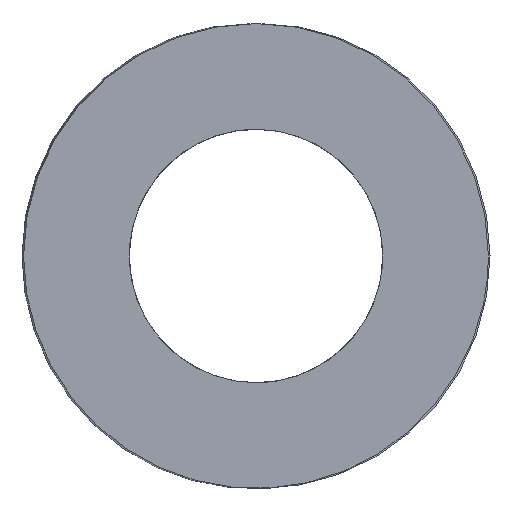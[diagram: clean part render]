
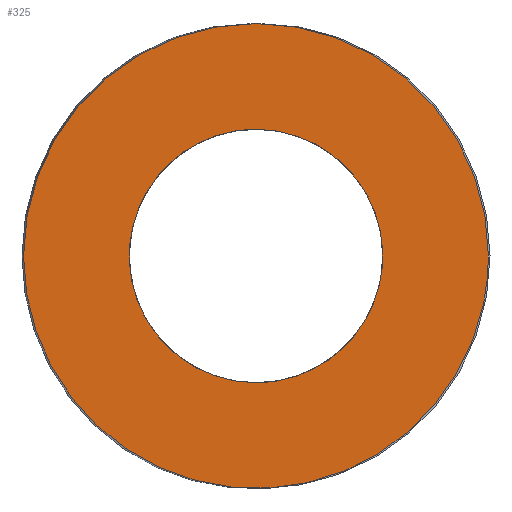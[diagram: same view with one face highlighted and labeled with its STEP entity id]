
A CAD part, left-side view. The second image highlights one B-rep face of the part: STEP entity #325.
In plain terms, the highlighted planar face has unit normal (-1, 0, 0).
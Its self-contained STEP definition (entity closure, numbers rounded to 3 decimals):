
#63=CARTESIAN_POINT('Vertex',(0.,24.4,0.)) ;
#89=CARTESIAN_POINT('Vertex',(0.,-24.4,0.)) ;
#93=CARTESIAN_POINT('Control Point',(0.,24.4,0.)) ;
#94=CARTESIAN_POINT('Control Point',(0.,24.4,-3.833)) ;
#95=CARTESIAN_POINT('Control Point',(0.,23.647,-7.665)) ;
#96=CARTESIAN_POINT('Control Point',(0.,22.142,-11.301)) ;
#97=CARTESIAN_POINT('Control Point',(0.,17.786,-17.786)) ;
#98=CARTESIAN_POINT('Control Point',(0.,11.301,-22.142)) ;
#99=CARTESIAN_POINT('Control Point',(0.,7.665,-23.647)) ;
#100=CARTESIAN_POINT('Control Point',(0.,0.,-25.153)) ;
#101=CARTESIAN_POINT('Control Point',(0.,-7.665,-23.647)) ;
#102=CARTESIAN_POINT('Control Point',(0.,-11.301,-22.142)) ;
#103=CARTESIAN_POINT('Control Point',(0.,-17.786,-17.786)) ;
#104=CARTESIAN_POINT('Control Point',(0.,-22.142,-11.301)) ;
#105=CARTESIAN_POINT('Control Point',(0.,-23.647,-7.665)) ;
#106=CARTESIAN_POINT('Control Point',(0.,-24.4,-3.833)) ;
#107=CARTESIAN_POINT('Control Point',(0.,-24.4,0.)) ;
#121=CARTESIAN_POINT('Axis2P3D Location',(0.,0.,0.)) ;
#256=CARTESIAN_POINT('Axis2P3D Location',(0.,12.2,0.)) ;
#266=CARTESIAN_POINT('Control Point',(0.,0.,-13.3)) ;
#267=CARTESIAN_POINT('Control Point',(0.,1.251,-13.3)) ;
#268=CARTESIAN_POINT('Control Point',(0.,2.501,-13.153)) ;
#269=CARTESIAN_POINT('Control Point',(0.,3.729,-12.859)) ;
#270=CARTESIAN_POINT('Control Point',(0.,6.092,-11.988)) ;
#271=CARTESIAN_POINT('Control Point',(0.,8.189,-10.593)) ;
#272=CARTESIAN_POINT('Control Point',(0.,9.15,-9.774)) ;
#273=CARTESIAN_POINT('Control Point',(0.,10.862,-7.927)) ;
#274=CARTESIAN_POINT('Control Point',(0.,12.099,-5.734)) ;
#275=CARTESIAN_POINT('Control Point',(0.,12.585,-4.569)) ;
#276=CARTESIAN_POINT('Control Point',(0.,13.275,-2.146)) ;
#277=CARTESIAN_POINT('Control Point',(0.,13.384,0.37)) ;
#278=CARTESIAN_POINT('Control Point',(0.,13.289,1.628)) ;
#279=CARTESIAN_POINT('Control Point',(0.,12.807,4.1)) ;
#280=CARTESIAN_POINT('Control Point',(0.,11.764,6.393)) ;
#281=CARTESIAN_POINT('Control Point',(0.,11.11,7.472)) ;
#282=CARTESIAN_POINT('Control Point',(0.,9.56,9.457)) ;
#283=CARTESIAN_POINT('Control Point',(0.,7.591,11.029)) ;
#284=CARTESIAN_POINT('Control Point',(0.,6.519,11.694)) ;
#285=CARTESIAN_POINT('Control Point',(0.,4.601,12.592)) ;
#286=CARTESIAN_POINT('Control Point',(0.,2.551,13.095)) ;
#287=CARTESIAN_POINT('Control Point',(0.,1.706,13.232)) ;
#288=CARTESIAN_POINT('Control Point',(0.,0.853,13.3)) ;
#289=CARTESIAN_POINT('Control Point',(0.,0.,13.3)) ;
#290=CARTESIAN_POINT('Vertex',(0.,0.,-13.3)) ;
#292=CARTESIAN_POINT('Vertex',(0.,0.,13.3)) ;
#296=CARTESIAN_POINT('Control Point',(0.,0.,13.3)) ;
#297=CARTESIAN_POINT('Control Point',(0.,-1.251,13.3)) ;
#298=CARTESIAN_POINT('Control Point',(0.,-2.501,13.153)) ;
#299=CARTESIAN_POINT('Control Point',(0.,-3.729,12.859)) ;
#300=CARTESIAN_POINT('Control Point',(0.,-6.092,11.988)) ;
#301=CARTESIAN_POINT('Control Point',(0.,-8.189,10.593)) ;
#302=CARTESIAN_POINT('Control Point',(0.,-9.15,9.774)) ;
#303=CARTESIAN_POINT('Control Point',(0.,-10.862,7.927)) ;
#304=CARTESIAN_POINT('Control Point',(0.,-12.099,5.734)) ;
#305=CARTESIAN_POINT('Control Point',(0.,-12.585,4.569)) ;
#306=CARTESIAN_POINT('Control Point',(0.,-13.275,2.146)) ;
#307=CARTESIAN_POINT('Control Point',(0.,-13.384,-0.37)) ;
#308=CARTESIAN_POINT('Control Point',(0.,-13.289,-1.628)) ;
#309=CARTESIAN_POINT('Control Point',(0.,-12.807,-4.1)) ;
#310=CARTESIAN_POINT('Control Point',(0.,-11.764,-6.393)) ;
#311=CARTESIAN_POINT('Control Point',(0.,-11.11,-7.472)) ;
#312=CARTESIAN_POINT('Control Point',(0.,-9.56,-9.457)) ;
#313=CARTESIAN_POINT('Control Point',(0.,-7.591,-11.029)) ;
#314=CARTESIAN_POINT('Control Point',(0.,-6.519,-11.694)) ;
#315=CARTESIAN_POINT('Control Point',(0.,-4.601,-12.592)) ;
#316=CARTESIAN_POINT('Control Point',(0.,-2.551,-13.095)) ;
#317=CARTESIAN_POINT('Control Point',(0.,-1.706,-13.232)) ;
#318=CARTESIAN_POINT('Control Point',(0.,-0.853,-13.3)) ;
#319=CARTESIAN_POINT('Control Point',(0.,0.,-13.3)) ;
#122=DIRECTION('Axis2P3D Direction',(1.,-0.,0.)) ;
#257=DIRECTION('Axis2P3D Direction',(-1.,0.,0.)) ;
#258=DIRECTION('Axis2P3D XDirection',(0.,1.,0.)) ;
#123=AXIS2_PLACEMENT_3D('Circle Axis2P3D',#121,#122,$) ;
#259=AXIS2_PLACEMENT_3D('Plane Axis2P3D',#256,#257,#258) ;
#262=ORIENTED_EDGE('',*,*,#108,.T.) ;
#263=ORIENTED_EDGE('',*,*,#125,.T.) ;
#322=ORIENTED_EDGE('',*,*,#294,.T.) ;
#323=ORIENTED_EDGE('',*,*,#320,.T.) ;
#324=FACE_BOUND('',#321,.T.) ;
#325=ADVANCED_FACE('392-B50-064',(#264,#324),#260,.T.) ;
#92=B_SPLINE_CURVE_WITH_KNOTS('',5,(#93,#94,#95,#96,#97,#98,#99,#100,#101,#102,#103,#104,#105,#106,#107),.UNSPECIFIED.,.F.,.U.,(6,3,3,3,6),(-38.327,-19.164,0.,19.164,38.327),.UNSPECIFIED.) ;
#265=B_SPLINE_CURVE_WITH_KNOTS('',5,(#266,#267,#268,#269,#270,#271,#272,#273,#274,#275,#276,#277,#278,#279,#280,#281,#282,#283,#284,#285,#286,#287,#288,#289),.UNSPECIFIED.,.F.,.U.,(6,3,3,3,3,3,3,6),(0.,8.843,17.686,26.53,35.373,44.216,53.059,59.09),.UNSPECIFIED.) ;
#295=B_SPLINE_CURVE_WITH_KNOTS('',5,(#296,#297,#298,#299,#300,#301,#302,#303,#304,#305,#306,#307,#308,#309,#310,#311,#312,#313,#314,#315,#316,#317,#318,#319),.UNSPECIFIED.,.F.,.U.,(6,3,3,3,3,3,3,6),(0.,8.843,17.686,26.53,35.373,44.216,53.059,59.09),.UNSPECIFIED.) ;
#124=CIRCLE('generated circle',#123,24.4) ;
#108=EDGE_CURVE('',#64,#90,#92,.T.) ;
#125=EDGE_CURVE('',#90,#64,#124,.F.) ;
#294=EDGE_CURVE('',#291,#293,#265,.T.) ;
#320=EDGE_CURVE('',#293,#291,#295,.T.) ;
#261=EDGE_LOOP('',(#262,#263)) ;
#321=EDGE_LOOP('',(#322,#323)) ;
#264=FACE_OUTER_BOUND('',#261,.T.) ;
#260=PLANE('Plane',#259) ;
#64=VERTEX_POINT('',#63) ;
#90=VERTEX_POINT('',#89) ;
#291=VERTEX_POINT('',#290) ;
#293=VERTEX_POINT('',#292) ;
